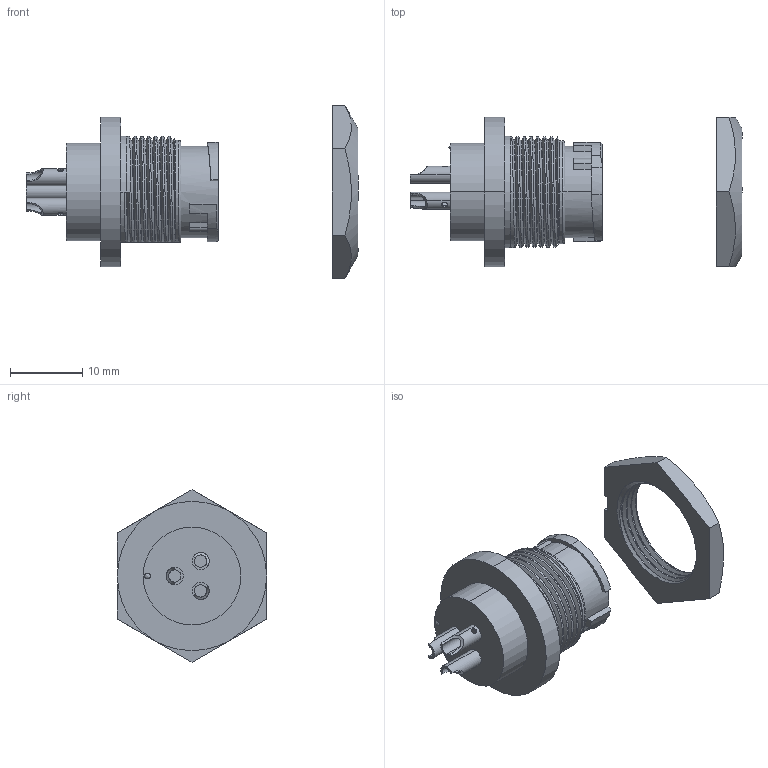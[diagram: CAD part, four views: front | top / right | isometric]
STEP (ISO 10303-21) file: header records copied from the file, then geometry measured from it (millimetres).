
FILE_DESCRIPTION (( 'STEP AP214' ), '1' );
FILE_NAME ('EN3P3F16X.STEP', '2014-07-01T16:18:12', ( '' ), ( '' ), 'SwSTEP 2.0', 'SolidWorks 2014', '' );
FILE_SCHEMA (( 'AUTOMOTIVE_DESIGN' ));
Length unit declared in the file: inch
Products named in the file (1): EN3P3F16X
Bounding box: 45.87 x 20.64 x 23.83 mm (x, y, z)
Volume: 3938.7 mm3; surface area: 3439.9 mm2
Topology: 2 solids, 2 shells, 278 faces, 758 edges, 484 vertices
Faces by surface type: bspline 99, cylinder 94, plane 56, cone 29
Entity records: 25251 total; most frequent: CARTESIAN_POINT 15627, ORIENTED_EDGE 1490, DIRECTION 939, EDGE_CURVE 745, VERTEX_POINT 484, AXIS2_PLACEMENT_3D 352, EDGE_LOOP 299, LENGTH_MEASURE_WITH_UNIT 282
